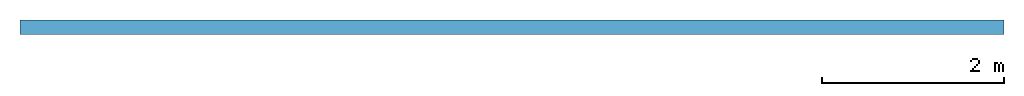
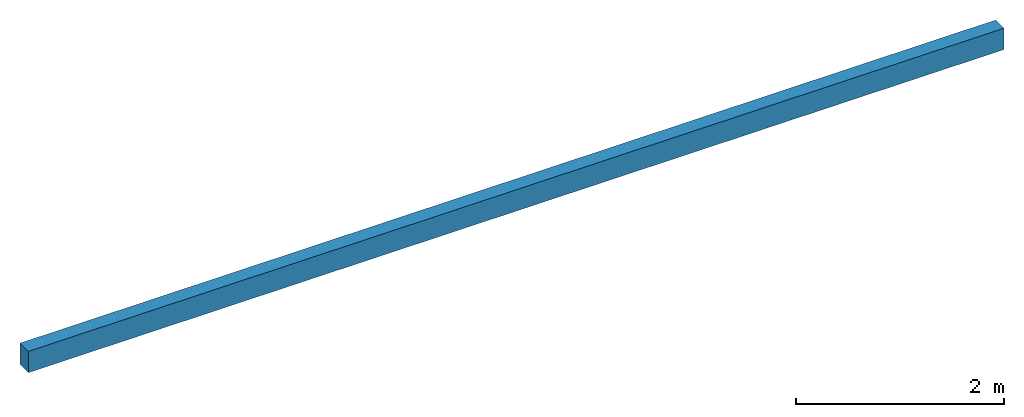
# One storey: 1 wall.
"""IFC2X3 model written with IfcOpenShell, lengths in millimetres."""

from ifc_helpers import new_model, entity, si_unit, converted_unit, money_unit, direction, frame, origin_with_axes, place, context, subcontext, project, spatial, polyline, outline, extrude, element, save


model = new_model("IFC2X3")

# Units and contexts
model_context = context("Model", 3, precision=1e-05, world=origin_with_axes(), true_north=direction((0.0, 1.0)))
body_context = subcontext(model_context, "Body", "Model", "MODEL_VIEW")
ifc_project = project(units=[si_unit("LENGTHUNIT", "METRE", prefix="MILLI"), si_unit("AREAUNIT", "SQUARE_METRE"), si_unit("VOLUMEUNIT", "CUBIC_METRE"), converted_unit("PLANEANGLEUNIT", "DEGREE", entity("IfcLengthMeasure", 0.017453), si_unit("PLANEANGLEUNIT", "RADIAN"), dimensions=[0, 0, 0, 0, 0, 0, 0]), si_unit("SOLIDANGLEUNIT", "STERADIAN"), si_unit("MASSUNIT", "GRAM"), converted_unit("TIMEUNIT", "SECOND", entity("IfcLengthMeasure", 1.0), si_unit("TIMEUNIT", "SECOND"), dimensions=[0, 0, 0, 0, 0, 0, 0]), si_unit("THERMODYNAMICTEMPERATUREUNIT", "DEGREE_CELSIUS"), si_unit("LUMINOUSINTENSITYUNIT", "LUMEN"), money_unit("USD")], contexts=[model_context])

# Storey
placement_1 = place(None, frame((20199.408973, 13842.537591, 0.0), z_axis=(0.0, 0.0, 1.0), x_axis=(1.0, 0.0, 0.0)))
placement_2 = place(placement_1, origin_with_axes())
storey_placement = place(placement_2, origin_with_axes())
storey = spatial("IfcBuildingStorey", at=storey_placement, Name="GroundFloor", CompositionType="ELEMENT", Elevation=0.0)

# Wall
wall_placement = place(storey_placement, frame((-8254.432022, -13762.12163, 3360.0), z_axis=(0.0, 0.0, 1.0), x_axis=(-1.0, -3.4e-05, 0.0)))
element("IfcWallStandardCase", 1, at=wall_placement, inside=storey, Name="Ext_Styr16", ObjectType="Not Defined", context=body_context, shape_type="SweptSolid", body=[
    extrude(outline(polyline([(0.0, -80.0), (0.0, 80.0), (10820.434576, 80.0), (10820.434576, -80.0), (0.0, -80.0)])), origin_with_axes(), (0.0, 0.0, 1.0), 250.0),
])

save(model, "model.ifc")
